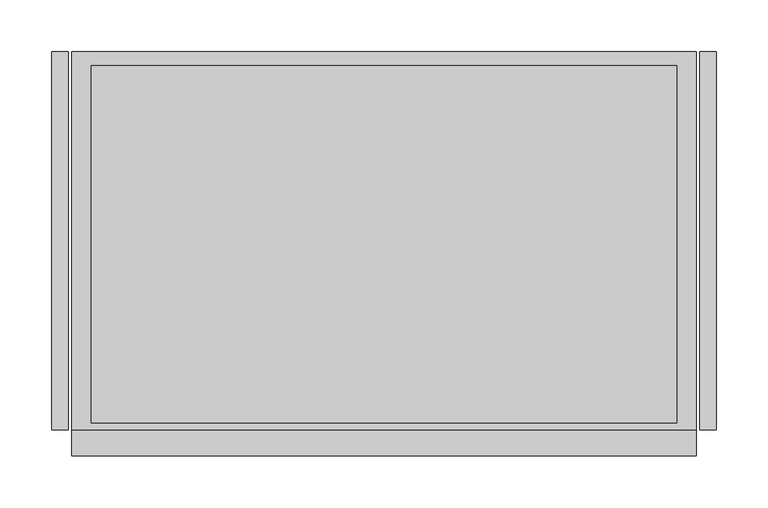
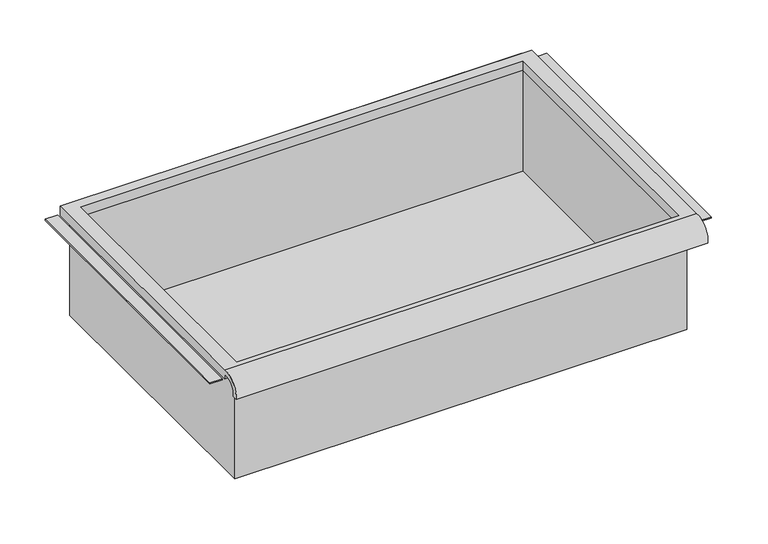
"""IFC4 building model written with IfcOpenShell, lengths in millimetres: furniture geometry."""

from ifc_helpers import new_model, si_unit, frame, origin, place, context, project, spatial, polyline, circle_curve, faceted_brep, source, transform, mapped, element, save
from ifc_brep_helpers import plane_surface, cylinder_surface, revolved_surface, advanced_brep


def furniture_1082dac0(model_context):
    return source(origin(), model_context, "Body", "SolidModel", [
        advanced_brep(
        [(305.0224999, -195.297482, 357.9849529), (305.0224999, -188.9125, 357.9849529), (305.0224999, -169.8625, 376.2464261), (305.0224999, -169.8625, 369.8964246), (305.0224999, 195.2625, 369.8964246), (305.0224999, 195.2625, 382.5964261), (305.0224999, -169.8625, 382.5964261), (-298.2275001, -195.297482, 357.9849529), (-298.2275001, -169.8625, 382.5964261), (-298.2275001, 195.2625, 382.5964261), (-298.2275001, 195.2625, 369.8964246), (-298.2275001, -169.8625, 369.8964246), (-298.2275001, -169.8625, 376.2464261), (-298.2275001, -188.9125, 357.9849529), (285.9725003, 181.9275, 369.8964246), (-279.1775005, 181.9275, 369.8964246), (-279.1775005, -163.5125, 369.8964246), (285.9725003, -163.5125, 369.8964246), (-279.1775005, 181.9275, 382.5964261), (285.9725003, 181.9275, 382.5964261), (285.9725003, -163.5125, 382.5964261), (-279.1775005, -163.5125, 382.5964261)],
        [
            (0, 1),
            (1, 2, circle_curve(frame((305.0224999, -172.3404634, 359.7643633), z_axis=(-1.0, 0.0, 0.0), x_axis=(0.0, 1.0, 0.0)), 16.6672942)),
            (2, 3),
            (3, 4),
            (4, 5),
            (5, 6),
            (6, 0, circle_curve(frame((305.0224999, -172.4601678, 359.8322533), z_axis=(1.0, 0.0, 0.0), x_axis=(0.0, 1.0, 0.0)), 22.9119061)),
            (7, 8, circle_curve(frame((-298.2275001, -172.4601678, 359.8322533), z_axis=(-1.0, 0.0, 0.0), x_axis=(0.0, 1.0, 0.0)), 22.9119061)),
            (8, 9),
            (9, 10),
            (10, 11),
            (11, 12),
            (12, 13, circle_curve(frame((-298.2275001, -172.3404634, 359.7643633), z_axis=(1.0, 0.0, 0.0), x_axis=(0.0, 1.0, 0.0)), 16.6672942)),
            (13, 7),
            (0, 7),
            (13, 1),
            (12, 2),
            (11, 3),
            (10, 4),
            (14, 15),
            (15, 16),
            (16, 17),
            (17, 14),
            (9, 5),
            (8, 6),
            (18, 19),
            (19, 20),
            (20, 21),
            (21, 18),
            (14, 19),
            (18, 15),
            (21, 16),
            (20, 17),
        ],
        [
            plane_surface(frame((305.0224999, -195.297482, 357.9849529), z_axis=(1.0, 0.0, 0.0), x_axis=(0.0, 1.0, 0.0))),
            plane_surface(frame((-298.2275001, -195.297482, 357.9849529), z_axis=(-1.0, 0.0, 0.0), x_axis=(0.0, -1.0, 0.0))),
            plane_surface(frame((305.0224999, -195.297482, 357.9849529), z_axis=(0.0, 0.0, -1.0), x_axis=(-1.0, 0.0, 0.0))),
            revolved_surface(polyline([(-298.2275001, -155.67316920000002, 359.7643633), (305.0224999, -155.67316920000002, 359.7643633)]), (-298.2275001, -172.3404634, 359.7643633), (-1.0, 0.0, 0.0)),
            plane_surface(frame((305.0224999, -169.8625, 376.2464261), z_axis=(0.0, -1.0, 0.0), x_axis=(-1.0, 0.0, 0.0))),
            plane_surface(frame((305.0224999, -169.8625, 369.8964246), z_axis=(0.0, 0.0, -1.0), x_axis=(-1.0, 0.0, 0.0))),
            plane_surface(frame((305.0224999, 195.2625, 369.8964246), z_axis=(0.0, 1.0, 0.0), x_axis=(-1.0, 0.0, 0.0))),
            plane_surface(frame((305.0224999, 195.2625, 382.5964261), z_axis=(0.0, 0.0, 1.0), x_axis=(-1.0, 0.0, 0.0))),
            cylinder_surface(frame((-298.2275001, -172.4601678, 359.8322533), z_axis=(1.0, 0.0, 0.0), x_axis=(0.0, 1.0, 0.0)), 22.9119061),
            plane_surface(frame((285.9725003, 181.9275, 382.5964261), z_axis=(0.0, -1.0, 0.0), x_axis=(0.0, 0.0, -1.0))),
            plane_surface(frame((-279.1775005, 181.9275, 382.5964261), z_axis=(1.0, 0.0, 0.0), x_axis=(0.0, 0.0, -1.0))),
            plane_surface(frame((-279.1775005, -163.5125, 382.5964261), z_axis=(0.0, 1.0, 0.0), x_axis=(0.0, 0.0, -1.0))),
            plane_surface(frame((285.9725003, -163.5125, 382.5964261), z_axis=(-1.0, 0.0, 0.0), x_axis=(0.0, 0.0, -1.0))),
        ],
        [
            (0, [[1, 2, 3, 4, 5, 6, 7]]),
            (1, [[8, 9, 10, 11, 12, 13, 14]]),
            (2, [[-1, 15, -14, 16]]),
            (3, [[-2, -16, -13, 17]]),
            (4, [[-3, -17, -12, 18]]),
            (5, [[-4, -18, -11, 19], [20, 21, 22, 23]]),
            (6, [[-5, -19, -10, 24]]),
            (7, [[-6, -24, -9, 25], [26, 27, 28, 29]]),
            (8, [[-7, -25, -8, -15]]),
            (9, [[30, -26, 31, -20]]),
            (10, [[-31, -29, 32, -21]]),
            (11, [[-32, -28, 33, -22]]),
            (12, [[-30, -23, -33, -27]]),
        ],
    ),
        faceted_brep([(-285.5275005, -169.8625, 230.1964261), (292.3225003, -169.8625, 230.1964261), (292.3225003, -169.8625, 382.5964261), (-285.5275005, -169.8625, 382.5964261), (-285.5275005, 195.2625, 230.1964261), (-285.5275005, 195.2625, 382.5964261), (292.3225003, 195.2625, 382.5964261), (292.3225003, 195.2625, 230.1964261), (-279.1775005, 181.9275, 382.5964261), (285.9725003, 181.9275, 382.5964261), (285.9725003, -163.5125, 382.5964261), (-279.1775005, -163.5125, 382.5964261), (285.9725003, 181.9275, 233.222598), (-279.1775005, 181.9275, 233.222598), (-279.1775005, -163.5125, 233.222598), (285.9725003, -163.5125, 233.222598)], [[[0, 1, 2, 3]], [[4, 5, 6, 7]], [[1, 0, 4, 7]], [[2, 1, 7, 6]], [[3, 2, 6, 5], [8, 9, 10, 11]], [[0, 3, 5, 4]], [[12, 13, 14, 15]], [[13, 12, 9, 8]], [[14, 13, 8, 11]], [[15, 14, 11, 10]], [[12, 15, 10, 9]]]),
        faceted_brep([(-317.2774997, 195.2625, 369.8964246), (-317.2774997, 195.2625, 371.4839246), (-301.4025001, 195.2625, 371.4839246), (-301.4025001, 195.2625, 369.8964246), (-317.2774997, -169.8625, 369.8964246), (-301.4025001, -169.8625, 369.8964246), (-301.4025001, -169.8625, 371.4839246), (-317.2774997, -169.8625, 371.4839246)], [[[0, 1, 2, 3]], [[4, 5, 6, 7]], [[1, 0, 4, 7]], [[2, 1, 7, 6]], [[3, 2, 6, 5]], [[0, 3, 5, 4]]]),
        faceted_brep([(324.0725245, 195.2625, 369.8964246), (308.1974999, 195.2625, 369.8964246), (308.1974999, 195.2625, 371.4839246), (324.0725245, 195.2625, 371.4839246), (324.0725245, -169.8625, 369.8964246), (324.0725245, -169.8625, 371.4839246), (308.1974999, -169.8625, 371.4839246), (308.1974999, -169.8625, 369.8964246)], [[[0, 1, 2, 3]], [[4, 5, 6, 7]], [[1, 0, 4, 7]], [[2, 1, 7, 6]], [[3, 2, 6, 5]], [[0, 3, 5, 4]]]),
    ])


if __name__ == "__main__":
    model = new_model("IFC4")
    model_context = context("Model", 3, world=origin())
    ifc_project = project(units=[si_unit("LENGTHUNIT", "METRE", prefix="MILLI")], contexts=[model_context])
    site = spatial("IfcSite", under=ifc_project)
    building = spatial("IfcBuilding", under=site)
    placement = place(None, origin())
    furniture_shape = furniture_1082dac0(model_context)
    element("IfcFurniture", 1, ObjectType="HermanMiller_Carts_CT511_Drawer : 6\"H x 15\"D x 24\"W", at=placement, inside=building, context=model_context, shape_type="MappedRepresentation", body=[
        mapped(furniture_shape, transform((0.0, 0.0, 0.0), x_axis=(1.0, 0.0, 0.0), y_axis=(0.0, 1.0, 0.0), z_axis=(0.0, 0.0, 1.0))),
    ])
    save(model, "model.ifc")
